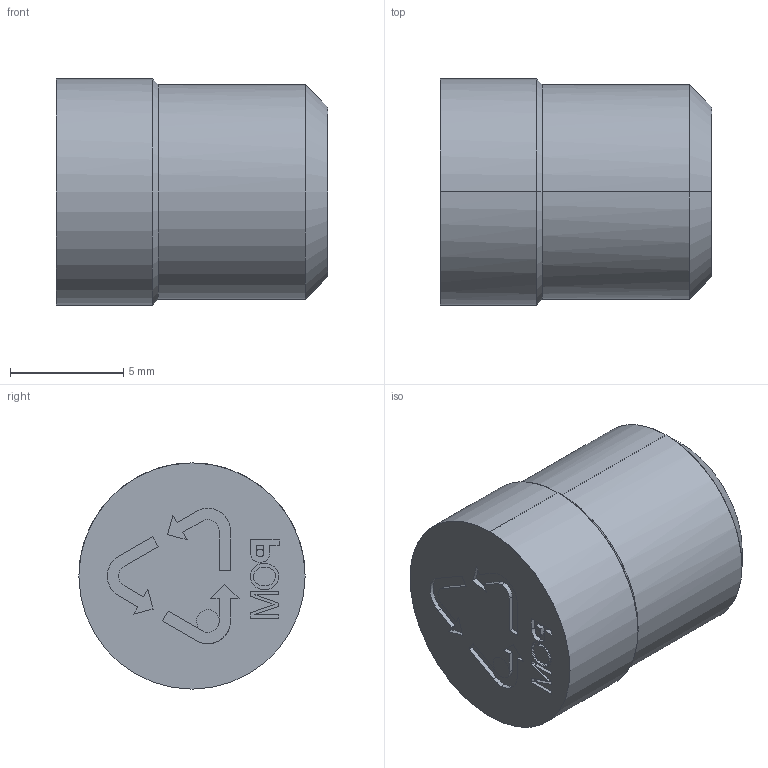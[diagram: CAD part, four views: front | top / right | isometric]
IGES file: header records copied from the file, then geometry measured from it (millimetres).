
Start section: START RECORD GO HERE.
Global section: file name: MPOM10.igs; native system: DASSAULT SYSTEMES CATIA V5 R20 - www.3ds.com; preprocessor: CATIA Version 5 Release 20 ; author: Utente; organization: NB04-ASUS; date: 20210326.144504; units: millimetre
Bounding box: 12 x 10 x 10 mm (x, y, z)
Surface area: 576.5 mm2 (no closed solid volume)
Topology: 0 solids, 0 shells, 140 faces, 794 edges, 788 vertices
Faces by surface type: plane 112, revolution 28
